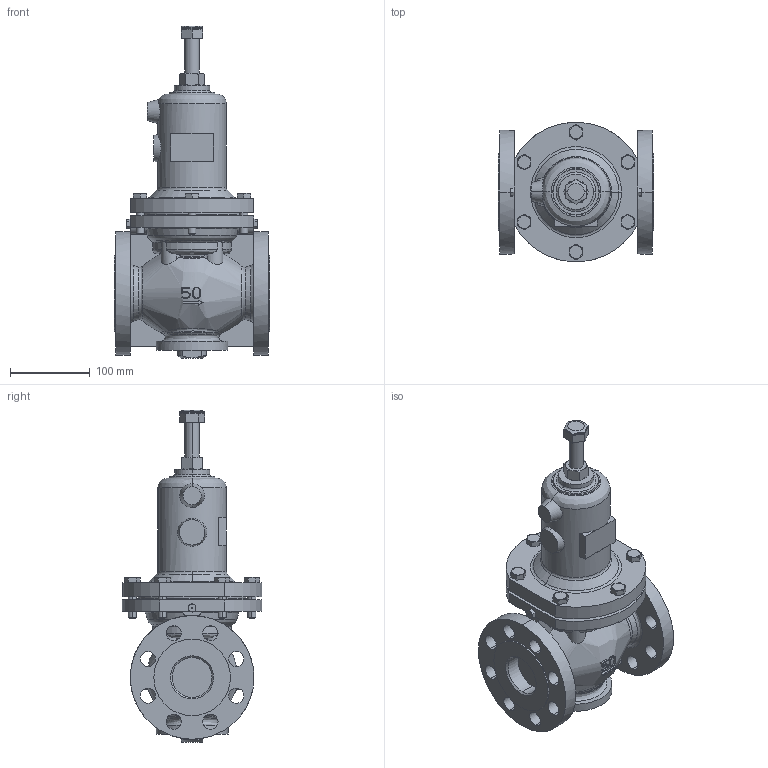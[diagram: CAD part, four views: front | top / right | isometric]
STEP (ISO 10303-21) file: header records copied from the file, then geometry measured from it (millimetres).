
FILE_DESCRIPTION( (''), '2;1');
FILE_NAME ('PC1276.13840.GD-200H 50A_12254.stp','2026-01-15T15:44:48',(''),(''),'spGate 20.6.3 (****-****-****-****)','','');
FILE_SCHEMA (('AUTOMOTIVE_DESIGN'));
Length unit declared in the file: millimetre
Products named in the file (4): Assembly; GD-200(50A); GD-200(3250)保護筒; CP_''_JIS B 1181 六角ナット 2種 上 ''_700
Assembly tree (3 placements, depth 2):
  Assembly
    GD-200(50A)
    GD-200(3250)保護筒
    CP_''_JIS B 1181 六角ナット 2種 上 ''_700
Bounding box: 195 x 174.66 x 416.11 mm (x, y, z)
Volume: 3755771.4 mm3; surface area: 330565.3 mm2
Topology: 3 solids, 3 shells, 494 faces, 1289 edges, 837 vertices
Faces by surface type: bspline 188, plane 167, cylinder 139
Entity records: 31085 total; most frequent: CARTESIAN_POINT 10536, ORIENTED_EDGE 2578, COLOUR_RGB 1786, PRESENTATION_STYLE_ASSIGNMENT 1786, STYLED_ITEM 1786, DIRECTION 1716, EDGE_CURVE 1289, DRAUGHTING_PRE_DEFINED_CURVE_FONT 1289
